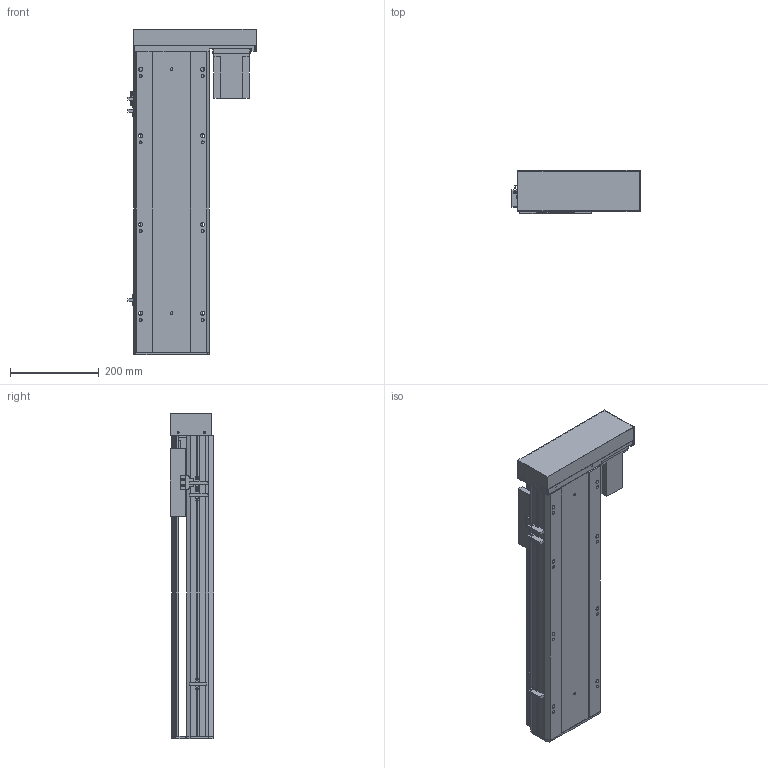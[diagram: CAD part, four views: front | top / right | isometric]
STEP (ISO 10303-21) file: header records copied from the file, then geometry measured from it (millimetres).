
FILE_DESCRIPTION (( 'STEP AP203' ), '1' );
FILE_NAME ('Y170-D10-S450-BR-P750W.STEP', '2020-01-21T12:17:34', ( '微软用户' ), ( '微软中国' ), 'SwSTEP 2.0', 'SolidWorks 2017', '' );
FILE_SCHEMA (( 'CONFIG_CONTROL_DESIGN' ));
Length unit declared in the file: millimetre
Products named in the file (12): Y170-D10-S450-BR-P750W; 侂狟750W; EGH20賑輸_蕼偞; Y雄赽釱-耜蚾; Y170-陔遴奻裔-BR; Y-BL.BR-俋欶; Y--BL蟀諉啣-陔遴-; Y170耜裔--準---; YD-Y100-135-新外置传感挡片(通用）; 170--掛极-BR; Y100-135俋离換覜ん; Y170-BL-P750W楊擘啣
Assembly tree (14 placements, depth 2):
  Y170-D10-S450-BR-P750W
    Y170耜裔--準---
    170--掛极-BR
    Y170-BL-P750W楊擘啣
    侂狟750W
    EGH20賑輸_蕼偞  x2
    Y雄赽釱-耜蚾
    Y170-陔遴奻裔-BR
    Y-BL.BR-俋欶
    Y--BL蟀諉啣-陔遴-
    YD-Y100-135-新外置传感挡片(通用）
    Y100-135俋离換覜ん  x3
Bounding box: 289 x 97 x 733.5 mm (x, y, z)
Volume: 4038240.9 mm3; surface area: 1340161.9 mm2
Topology: 14 solids, 14 shells, 897 faces, 2498 edges, 1648 vertices
Faces by surface type: plane 443, cylinder 438, cone 16
Entity records: 28010 total; most frequent: CARTESIAN_POINT 4846, DIRECTION 4668, ORIENTED_EDGE 4492, EDGE_CURVE 2246, AXIS2_PLACEMENT_3D 1650, VERTEX_POINT 1492, VECTOR 1368, LINE 1368
